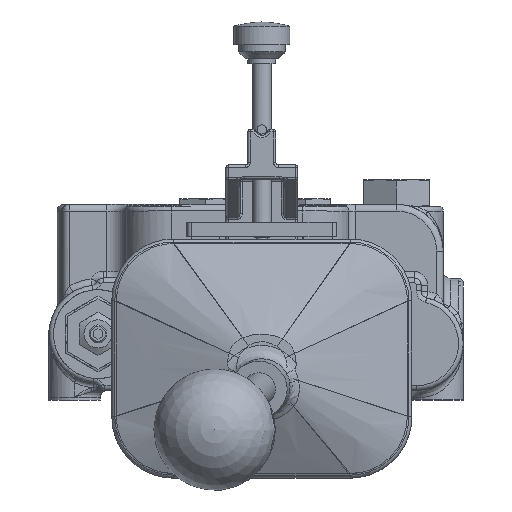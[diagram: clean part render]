
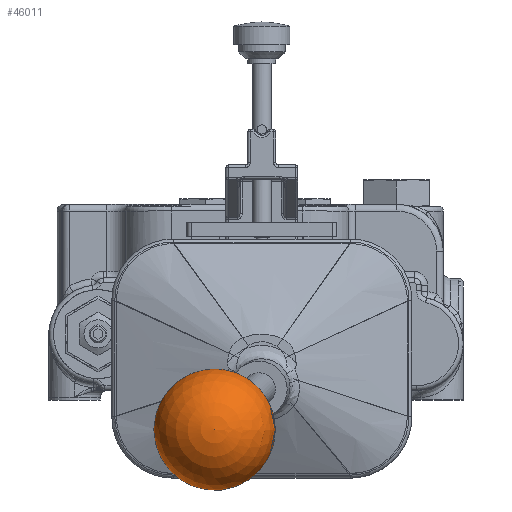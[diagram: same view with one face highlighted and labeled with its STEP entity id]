
A CAD part, top view. The second image highlights one B-rep face of the part: STEP entity #46011.
In plain terms, the highlighted spherical face has radius 20.637 mm.
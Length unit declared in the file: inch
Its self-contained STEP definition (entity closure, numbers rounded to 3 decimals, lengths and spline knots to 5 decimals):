
#45995=CARTESIAN_POINT('',(0.1203,-1.29286,9.75886));
#45996=DIRECTION('',(0.0,0.0,1.0));
#45997=DIRECTION('',(1.0,0.0,0.0));
#45998=AXIS2_PLACEMENT_3D('',#45995,#45996,#45997);
#45999=SPHERICAL_SURFACE('',#45998,0.8125);
#46000=CARTESIAN_POINT('',(0.20024,-1.00007,9.00517));
#46001=VERTEX_POINT('',#46000);
#46002=CARTESIAN_POINT('',(0.20133,-1.21781,8.98419));
#46003=DIRECTION('',(0.104,0.096,-0.99));
#46004=DIRECTION('',(-0.005,0.995,0.096));
#46005=AXIS2_PLACEMENT_3D('',#46002,#46003,#46004);
#46006=CIRCLE('',#46005,0.21875);
#46007=EDGE_CURVE('',#46001,#46001,#46006,.T.);
#46008=ORIENTED_EDGE('',*,*,#46007,.F.);
#46009=EDGE_LOOP('',(#46008));
#46010=FACE_OUTER_BOUND('',#46009,.T.);
#46011=ADVANCED_FACE('',(#46010),#45999,.T.);
